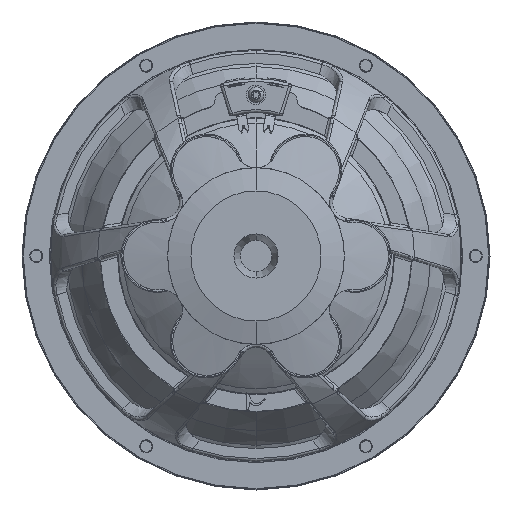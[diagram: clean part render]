
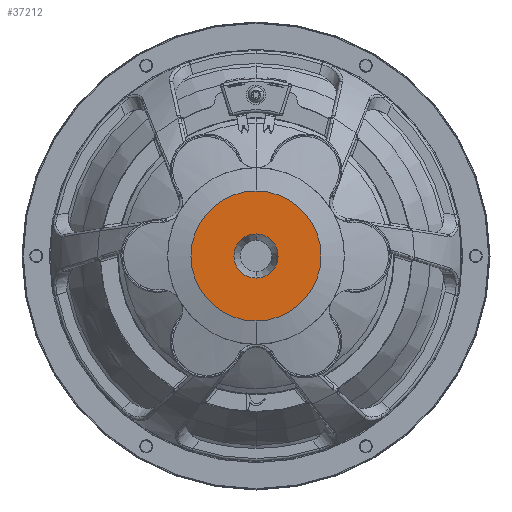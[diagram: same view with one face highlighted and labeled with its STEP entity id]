
A CAD part, front view. The second image highlights one B-rep face of the part: STEP entity #37212.
In plain terms, the highlighted planar face has unit normal (0, -1, 0).
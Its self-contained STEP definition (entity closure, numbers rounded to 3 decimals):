
#1445 = AXIS2_PLACEMENT_3D ( 'NONE', #57859, #18142, #48174 ) ;
#3853 = VERTEX_POINT ( 'NONE', #17594 ) ;
#4036 = CARTESIAN_POINT ( 'NONE',  ( 0., -40., 0. ) ) ;
#4319 = DIRECTION ( 'NONE',  ( 0., 0., 1. ) ) ;
#4775 = AXIS2_PLACEMENT_3D ( 'NONE', #54119, #59268, #24596 ) ;
#9150 = CARTESIAN_POINT ( 'NONE',  ( 0., -40., 0. ) ) ;
#12120 = VERTEX_POINT ( 'NONE', #52986 ) ;
#12569 = CIRCLE ( 'NONE', #54520, 25. ) ;
#17594 = CARTESIAN_POINT ( 'NONE',  ( 0., -40., 8.5 ) ) ;
#17913 = DIRECTION ( 'NONE',  ( 0., 0., 1. ) ) ;
#18142 = DIRECTION ( 'NONE',  ( 0., -1., 0. ) ) ;
#20815 = EDGE_CURVE ( 'NONE', #51906, #12120, #47125, .T. ) ;
#21896 = EDGE_CURVE ( 'NONE', #39660, #3853, #28833, .T. ) ;
#23486 = PLANE ( 'NONE',  #1445 ) ;
#24247 = CIRCLE ( 'NONE', #4775, 8.5 ) ;
#24596 = DIRECTION ( 'NONE',  ( 0., 0., 1. ) ) ;
#28481 = EDGE_LOOP ( 'NONE', ( #33332, #44097 ) ) ;
#28692 = DIRECTION ( 'NONE',  ( 0., 1., 0. ) ) ;
#28833 = CIRCLE ( 'NONE', #52386, 8.5 ) ;
#32326 = DIRECTION ( 'NONE',  ( 0., 1., 0. ) ) ;
#33332 = ORIENTED_EDGE ( 'NONE', *, *, #21896, .T. ) ;
#33801 = DIRECTION ( 'NONE',  ( 0., 1., 0. ) ) ;
#37212 = ADVANCED_FACE ( 'NONE', ( #46319, #47577 ), #23486, .T. ) ;
#39660 = VERTEX_POINT ( 'NONE', #44737 ) ;
#39892 = DIRECTION ( 'NONE',  ( 0., 0., 1. ) ) ;
#41884 = EDGE_LOOP ( 'NONE', ( #59164, #46992 ) ) ;
#44097 = ORIENTED_EDGE ( 'NONE', *, *, #45881, .T. ) ;
#44737 = CARTESIAN_POINT ( 'NONE',  ( 0., -40., -8.5 ) ) ;
#45881 = EDGE_CURVE ( 'NONE', #3853, #39660, #24247, .T. ) ;
#46013 = CARTESIAN_POINT ( 'NONE',  ( 0., -40., 25. ) ) ;
#46319 = FACE_OUTER_BOUND ( 'NONE', #41884, .T. ) ;
#46992 = ORIENTED_EDGE ( 'NONE', *, *, #60511, .F. ) ;
#47125 = CIRCLE ( 'NONE', #53301, 25. ) ;
#47577 = FACE_BOUND ( 'NONE', #28481, .T. ) ;
#48174 = DIRECTION ( 'NONE',  ( 0., 0., -1. ) ) ;
#51906 = VERTEX_POINT ( 'NONE', #46013 ) ;
#52386 = AXIS2_PLACEMENT_3D ( 'NONE', #58504, #33801, #39892 ) ;
#52986 = CARTESIAN_POINT ( 'NONE',  ( 0., -40., -25. ) ) ;
#53301 = AXIS2_PLACEMENT_3D ( 'NONE', #4036, #32326, #17913 ) ;
#54119 = CARTESIAN_POINT ( 'NONE',  ( 0., -40., 0. ) ) ;
#54520 = AXIS2_PLACEMENT_3D ( 'NONE', #9150, #28692, #4319 ) ;
#57859 = CARTESIAN_POINT ( 'NONE',  ( 0., -40., 8.5 ) ) ;
#58504 = CARTESIAN_POINT ( 'NONE',  ( 0., -40., 0. ) ) ;
#59164 = ORIENTED_EDGE ( 'NONE', *, *, #20815, .F. ) ;
#59268 = DIRECTION ( 'NONE',  ( 0., 1., 0. ) ) ;
#60511 = EDGE_CURVE ( 'NONE', #12120, #51906, #12569, .T. ) ;
